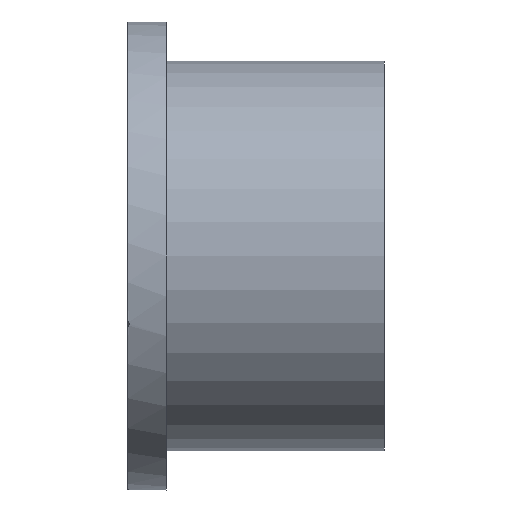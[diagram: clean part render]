
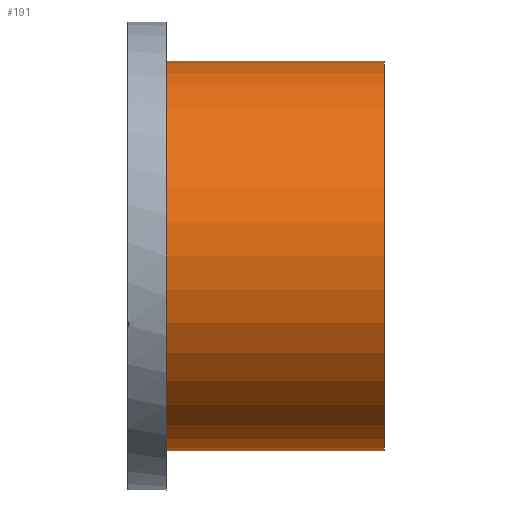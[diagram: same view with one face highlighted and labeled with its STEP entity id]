
A CAD part, front view. The second image highlights one B-rep face of the part: STEP entity #191.
In plain terms, the highlighted cylindrical face has radius 127 mm (diameter 254 mm), a full revolution.
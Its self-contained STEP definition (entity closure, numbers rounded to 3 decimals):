
#191 = ADVANCED_FACE( '', ( #429, #430 ), #431, .T. );
#429 = FACE_OUTER_BOUND( '', #699, .T. );
#430 = FACE_OUTER_BOUND( '', #700, .T. );
#431 = CYLINDRICAL_SURFACE( '', #701, 127. );
#699 = EDGE_LOOP( '', ( #1048 ) );
#700 = EDGE_LOOP( '', ( #1049 ) );
#701 = AXIS2_PLACEMENT_3D( '', #1050, #1051, #1052 );
#1048 = ORIENTED_EDGE( '', *, *, #1195, .T. );
#1049 = ORIENTED_EDGE( '', *, *, #1249, .F. );
#1050 = CARTESIAN_POINT( '', ( 0., 154.3, 0. ) );
#1051 = DIRECTION( '', ( 0., -1., 0. ) );
#1052 = DIRECTION( '', ( 0., 0., -1. ) );
#1195 = EDGE_CURVE( '', #1366, #1366, #1367, .T. );
#1249 = EDGE_CURVE( '', #1451, #1451, #1452, .T. );
#1366 = VERTEX_POINT( '', #1624 );
#1367 = CIRCLE( '', #1625, 127. );
#1451 = VERTEX_POINT( '', #1744 );
#1452 = CIRCLE( '', #1745, 127. );
#1624 = CARTESIAN_POINT( '', ( 127., 0., 0. ) );
#1625 = AXIS2_PLACEMENT_3D( '', #1893, #1894, #1895 );
#1744 = CARTESIAN_POINT( '', ( 127., 154.3, 0. ) );
#1745 = AXIS2_PLACEMENT_3D( '', #1984, #1985, #1986 );
#1893 = CARTESIAN_POINT( '', ( 0., 0., 0. ) );
#1894 = DIRECTION( '', ( 0., 1., 0. ) );
#1895 = DIRECTION( '', ( 1., 0., 0. ) );
#1984 = CARTESIAN_POINT( '', ( 0., 154.3, 0. ) );
#1985 = DIRECTION( '', ( 0., 1., 0. ) );
#1986 = DIRECTION( '', ( 1., 0., 0. ) );
